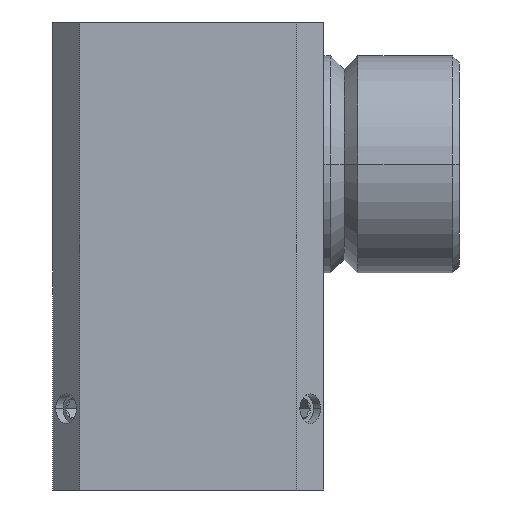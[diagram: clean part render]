
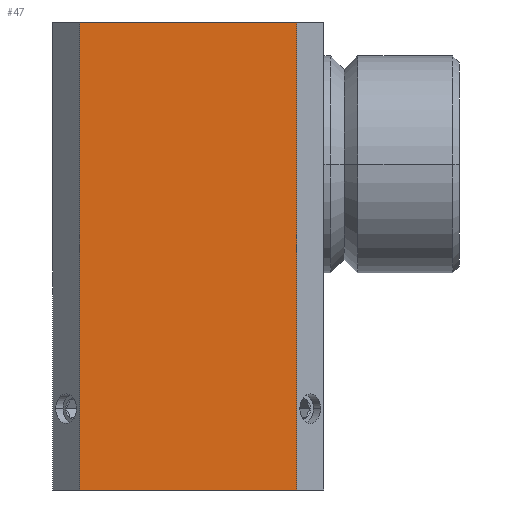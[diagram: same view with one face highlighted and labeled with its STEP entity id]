
A CAD part, left-side view. The second image highlights one B-rep face of the part: STEP entity #47.
In plain terms, the highlighted planar face has unit normal (-1, 0, 0).
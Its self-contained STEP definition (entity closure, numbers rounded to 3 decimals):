
#47 = ADVANCED_FACE ( 'NONE', ( #3691 ), #2853, .T. ) ;
#471 = VECTOR ( 'NONE', #1337, 1000. ) ;
#744 = AXIS2_PLACEMENT_3D ( 'NONE', #5139, #5484, #1577 ) ;
#755 = CARTESIAN_POINT ( 'NONE',  ( -10., -8., -24. ) ) ;
#1059 = CARTESIAN_POINT ( 'NONE',  ( -10., 8., -24. ) ) ;
#1337 = DIRECTION ( 'NONE',  ( 0., 0., -1. ) ) ;
#1350 = LINE ( 'NONE', #2231, #2914 ) ;
#1365 = EDGE_CURVE ( 'NONE', #5400, #2508, #5688, .T. ) ;
#1577 = DIRECTION ( 'NONE',  ( 0., 0., 1. ) ) ;
#1775 = CARTESIAN_POINT ( 'NONE',  ( -10., 8., -24. ) ) ;
#1991 = VECTOR ( 'NONE', #4491, 1000. ) ;
#2202 = DIRECTION ( 'NONE',  ( 0., 1., 0. ) ) ;
#2231 = CARTESIAN_POINT ( 'NONE',  ( -10., -10., -24. ) ) ;
#2244 = CARTESIAN_POINT ( 'NONE',  ( -10., 8., 10.5 ) ) ;
#2254 = ORIENTED_EDGE ( 'NONE', *, *, #4198, .T. ) ;
#2410 = VECTOR ( 'NONE', #3489, 1000. ) ;
#2508 = VERTEX_POINT ( 'NONE', #3408 ) ;
#2528 = VERTEX_POINT ( 'NONE', #755 ) ;
#2572 = CARTESIAN_POINT ( 'NONE',  ( -10., -10., 10.5 ) ) ;
#2687 = EDGE_CURVE ( 'NONE', #5400, #5045, #4497, .T. ) ;
#2853 = PLANE ( 'NONE',  #744 ) ;
#2879 = ORIENTED_EDGE ( 'NONE', *, *, #2687, .T. ) ;
#2914 = VECTOR ( 'NONE', #2202, 1000. ) ;
#3073 = LINE ( 'NONE', #5244, #1991 ) ;
#3408 = CARTESIAN_POINT ( 'NONE',  ( -10., -8., 10.5 ) ) ;
#3426 = EDGE_CURVE ( 'NONE', #2528, #5045, #1350, .T. ) ;
#3489 = DIRECTION ( 'NONE',  ( 0., -1., 0. ) ) ;
#3691 = FACE_OUTER_BOUND ( 'NONE', #5720, .T. ) ;
#3820 = ORIENTED_EDGE ( 'NONE', *, *, #3426, .F. ) ;
#4198 = EDGE_CURVE ( 'NONE', #2528, #2508, #3073, .T. ) ;
#4491 = DIRECTION ( 'NONE',  ( 0., 0., 1. ) ) ;
#4497 = LINE ( 'NONE', #1775, #471 ) ;
#5045 = VERTEX_POINT ( 'NONE', #1059 ) ;
#5139 = CARTESIAN_POINT ( 'NONE',  ( -10., 10., 10.5 ) ) ;
#5244 = CARTESIAN_POINT ( 'NONE',  ( -10., -8., 10.5 ) ) ;
#5375 = ORIENTED_EDGE ( 'NONE', *, *, #1365, .F. ) ;
#5400 = VERTEX_POINT ( 'NONE', #2244 ) ;
#5484 = DIRECTION ( 'NONE',  ( -1., 0., 0. ) ) ;
#5688 = LINE ( 'NONE', #2572, #2410 ) ;
#5720 = EDGE_LOOP ( 'NONE', ( #3820, #2254, #5375, #2879 ) ) ;
